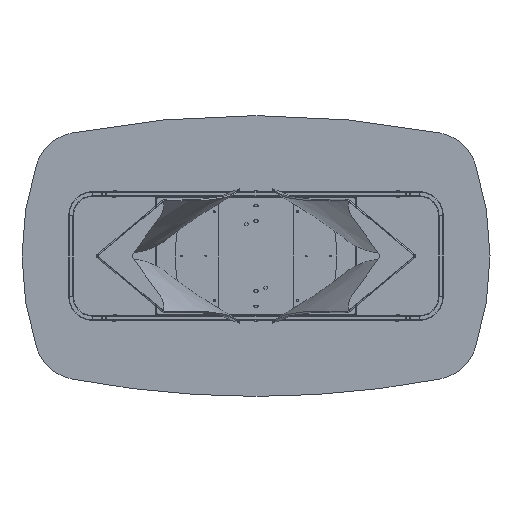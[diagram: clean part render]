
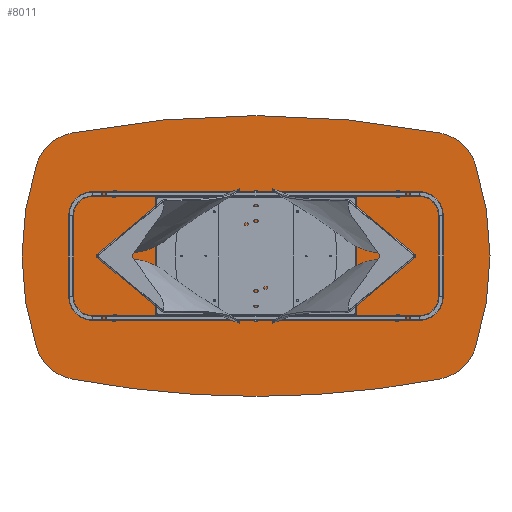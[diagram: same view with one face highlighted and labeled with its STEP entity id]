
A CAD part, front view. The second image highlights one B-rep face of the part: STEP entity #8011.
In plain terms, the highlighted planar face has unit normal (0, -1, 0).
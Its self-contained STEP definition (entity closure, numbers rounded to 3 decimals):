
#58 = DIRECTION ( 'NONE',  ( 0., -1., 0. ) ) ;
#293 = VERTEX_POINT ( 'NONE', #1598 ) ;
#352 = AXIS2_PLACEMENT_3D ( 'NONE', #10627, #4000, #4113 ) ;
#1080 = EDGE_LOOP ( 'NONE', ( #11498, #19159, #13649, #7976, #16841, #12039, #5652, #10997, #3032 ) ) ;
#1233 = VERTEX_POINT ( 'NONE', #6648 ) ;
#1463 = CARTESIAN_POINT ( 'NONE',  ( 937.639, 0., 391.646 ) ) ;
#1515 = AXIS2_PLACEMENT_3D ( 'NONE', #18620, #3323, #3098 ) ;
#1588 = DIRECTION ( 'NONE',  ( 0., 0., 1. ) ) ;
#1598 = CARTESIAN_POINT ( 'NONE',  ( -937.639, 0., -391.646 ) ) ;
#1863 = EDGE_CURVE ( 'NONE', #6485, #6300, #16822, .T. ) ;
#2074 = CARTESIAN_POINT ( 'NONE',  ( 0., 0., -3600. ) ) ;
#2431 = DIRECTION ( 'NONE',  ( 0., 1., 0. ) ) ;
#2761 = CARTESIAN_POINT ( 'NONE',  ( -130.5, 0., 1800. ) ) ;
#3032 = ORIENTED_EDGE ( 'NONE', *, *, #15203, .T. ) ;
#3098 = DIRECTION ( 'NONE',  ( 0., 0., 1. ) ) ;
#3270 = AXIS2_PLACEMENT_3D ( 'NONE', #21599, #21481, #7470 ) ;
#3323 = DIRECTION ( 'NONE',  ( 0., 1., 0. ) ) ;
#3362 = VERTEX_POINT ( 'NONE', #6611 ) ;
#3911 = DIRECTION ( 'NONE',  ( 0., 0., 1. ) ) ;
#3979 = DIRECTION ( 'NONE',  ( 0., 0., 1. ) ) ;
#4000 = DIRECTION ( 'NONE',  ( 0., 1., 0. ) ) ;
#4113 = DIRECTION ( 'NONE',  ( 0., 0., 1. ) ) ;
#4362 = CIRCLE ( 'NONE', #3270, 200. ) ;
#5175 = EDGE_CURVE ( 'NONE', #293, #6300, #4362, .T. ) ;
#5652 = ORIENTED_EDGE ( 'NONE', *, *, #11469, .T. ) ;
#5945 = DIRECTION ( 'NONE',  ( 0., 0., 1. ) ) ;
#6300 = VERTEX_POINT ( 'NONE', #12404 ) ;
#6485 = VERTEX_POINT ( 'NONE', #10804 ) ;
#6611 = CARTESIAN_POINT ( 'NONE',  ( 784.906, 0., 526.006 ) ) ;
#6648 = CARTESIAN_POINT ( 'NONE',  ( -937.639, 0., 391.646 ) ) ;
#7053 = CIRCLE ( 'NONE', #14358, 4200. ) ;
#7204 = CIRCLE ( 'NONE', #18143, 200. ) ;
#7336 = AXIS2_PLACEMENT_3D ( 'NONE', #7666, #21577, #5945 ) ;
#7470 = DIRECTION ( 'NONE',  ( 0., 0., 1. ) ) ;
#7666 = CARTESIAN_POINT ( 'NONE',  ( 261., 0., 0. ) ) ;
#7976 = ORIENTED_EDGE ( 'NONE', *, *, #5175, .T. ) ;
#8011 = ADVANCED_FACE ( 'NONE', ( #19773 ), #18399, .F. ) ;
#8030 = DIRECTION ( 'NONE',  ( 0., 0., 1. ) ) ;
#8085 = AXIS2_PLACEMENT_3D ( 'NONE', #2761, #2431, #9731 ) ;
#8945 = EDGE_CURVE ( 'NONE', #11692, #3362, #7053, .T. ) ;
#9027 = VERTEX_POINT ( 'NONE', #1463 ) ;
#9731 = DIRECTION ( 'NONE',  ( 0., 0., 1. ) ) ;
#10436 = EDGE_CURVE ( 'NONE', #9027, #16065, #17146, .T. ) ;
#10606 = DIRECTION ( 'NONE',  ( 0., -1., 0. ) ) ;
#10627 = CARTESIAN_POINT ( 'NONE',  ( 0., 0., 3600. ) ) ;
#10804 = CARTESIAN_POINT ( 'NONE',  ( 0., 0., -600. ) ) ;
#10997 = ORIENTED_EDGE ( 'NONE', *, *, #10436, .F. ) ;
#11164 = CARTESIAN_POINT ( 'NONE',  ( -784.906, 0., 526.006 ) ) ;
#11469 = EDGE_CURVE ( 'NONE', #14064, #16065, #15943, .T. ) ;
#11498 = ORIENTED_EDGE ( 'NONE', *, *, #8945, .F. ) ;
#11587 = AXIS2_PLACEMENT_3D ( 'NONE', #15705, #58, #20916 ) ;
#11692 = VERTEX_POINT ( 'NONE', #11164 ) ;
#11701 = DIRECTION ( 'NONE',  ( 0., -1., 0. ) ) ;
#12039 = ORIENTED_EDGE ( 'NONE', *, *, #17620, .F. ) ;
#12111 = DIRECTION ( 'NONE',  ( 0., 1., 0. ) ) ;
#12297 = AXIS2_PLACEMENT_3D ( 'NONE', #21409, #10606, #3979 ) ;
#12404 = CARTESIAN_POINT ( 'NONE',  ( -784.906, 0., -526.006 ) ) ;
#12436 = AXIS2_PLACEMENT_3D ( 'NONE', #15639, #12111, #1588 ) ;
#13181 = EDGE_CURVE ( 'NONE', #11692, #1233, #7204, .T. ) ;
#13183 = CARTESIAN_POINT ( 'NONE',  ( -747.529, 0., 329.529 ) ) ;
#13649 = ORIENTED_EDGE ( 'NONE', *, *, #22357, .F. ) ;
#14064 = VERTEX_POINT ( 'NONE', #21104 ) ;
#14358 = AXIS2_PLACEMENT_3D ( 'NONE', #2074, #16241, #3911 ) ;
#15203 = EDGE_CURVE ( 'NONE', #9027, #3362, #18501, .T. ) ;
#15639 = CARTESIAN_POINT ( 'NONE',  ( -261., 0., 0. ) ) ;
#15705 = CARTESIAN_POINT ( 'NONE',  ( 747.529, 0., 329.529 ) ) ;
#15943 = CIRCLE ( 'NONE', #12297, 200. ) ;
#16065 = VERTEX_POINT ( 'NONE', #19506 ) ;
#16241 = DIRECTION ( 'NONE',  ( 0., 1., 0. ) ) ;
#16465 = CIRCLE ( 'NONE', #7336, 1261. ) ;
#16822 = CIRCLE ( 'NONE', #1515, 4200. ) ;
#16841 = ORIENTED_EDGE ( 'NONE', *, *, #1863, .F. ) ;
#17114 = CIRCLE ( 'NONE', #352, 4200. ) ;
#17146 = CIRCLE ( 'NONE', #12436, 1261. ) ;
#17620 = EDGE_CURVE ( 'NONE', #14064, #6485, #17114, .T. ) ;
#18143 = AXIS2_PLACEMENT_3D ( 'NONE', #13183, #11701, #8030 ) ;
#18399 = PLANE ( 'NONE',  #8085 ) ;
#18501 = CIRCLE ( 'NONE', #11587, 200. ) ;
#18620 = CARTESIAN_POINT ( 'NONE',  ( 0., 0., 3600. ) ) ;
#19159 = ORIENTED_EDGE ( 'NONE', *, *, #13181, .T. ) ;
#19506 = CARTESIAN_POINT ( 'NONE',  ( 937.639, 0., -391.646 ) ) ;
#19773 = FACE_OUTER_BOUND ( 'NONE', #1080, .T. ) ;
#20916 = DIRECTION ( 'NONE',  ( 0., 0., 1. ) ) ;
#21104 = CARTESIAN_POINT ( 'NONE',  ( 784.906, 0., -526.006 ) ) ;
#21409 = CARTESIAN_POINT ( 'NONE',  ( 747.529, 0., -329.529 ) ) ;
#21481 = DIRECTION ( 'NONE',  ( 0., -1., 0. ) ) ;
#21577 = DIRECTION ( 'NONE',  ( 0., 1., 0. ) ) ;
#21599 = CARTESIAN_POINT ( 'NONE',  ( -747.529, 0., -329.529 ) ) ;
#22357 = EDGE_CURVE ( 'NONE', #293, #1233, #16465, .T. ) ;
